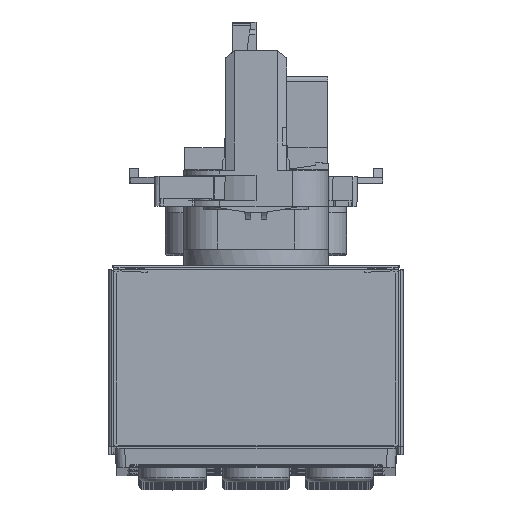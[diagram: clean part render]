
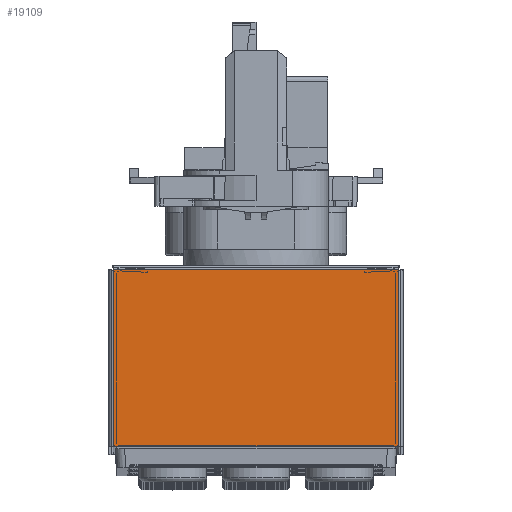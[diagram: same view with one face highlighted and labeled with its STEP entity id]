
A CAD part, top view. The second image highlights one B-rep face of the part: STEP entity #19109.
In plain terms, the highlighted planar face has unit normal (0, 0, 1).
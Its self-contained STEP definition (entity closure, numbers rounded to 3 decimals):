
#3027=FACE_OUTER_BOUND('',#4295,.T.);
#4295=EDGE_LOOP('',(#17070,#17071,#17072,#17073));
#5727=LINE('',#37248,#7204);
#5728=LINE('',#37250,#7205);
#5729=LINE('',#37252,#7206);
#5730=LINE('',#37253,#7207);
#7204=VECTOR('',#27275,10.);
#7205=VECTOR('',#27276,10.);
#7206=VECTOR('',#27277,10.);
#7207=VECTOR('',#27278,10.);
#9059=VERTEX_POINT('',#37246);
#9060=VERTEX_POINT('',#37247);
#9061=VERTEX_POINT('',#37249);
#9062=VERTEX_POINT('',#37251);
#11748=EDGE_CURVE('',#9059,#9060,#5727,.T.);
#11749=EDGE_CURVE('',#9060,#9061,#5728,.T.);
#11750=EDGE_CURVE('',#9062,#9061,#5729,.T.);
#11751=EDGE_CURVE('',#9062,#9059,#5730,.T.);
#17070=ORIENTED_EDGE('',*,*,#11748,.T.);
#17071=ORIENTED_EDGE('',*,*,#11749,.T.);
#17072=ORIENTED_EDGE('',*,*,#11750,.F.);
#17073=ORIENTED_EDGE('',*,*,#11751,.T.);
#18001=PLANE('',#21422);
#19109=ADVANCED_FACE('',(#3027),#18001,.T.);
#21422=AXIS2_PLACEMENT_3D('',#37245,#27273,#27274);
#27273=DIRECTION('center_axis',(0.,0.,
1.));
#27274=DIRECTION('ref_axis',(1.,0.,0.));
#27275=DIRECTION('',(-1.,0.,0.));
#27276=DIRECTION('',(0.,-1.,0.));
#27277=DIRECTION('',(-1.,0.,0.));
#27278=DIRECTION('',(0.,1.,0.));
#37245=CARTESIAN_POINT('Origin',(0.,20.419,
500.5));
#37246=CARTESIAN_POINT('',(31.5,39.419,500.5));
#37247=CARTESIAN_POINT('',(-31.5,39.419,500.5));
#37248=CARTESIAN_POINT('',(15.75,39.419,500.5));
#37249=CARTESIAN_POINT('',(-31.5,0.419,500.5));
#37250=CARTESIAN_POINT('',(-31.5,29.919,500.5));
#37251=CARTESIAN_POINT('',(31.5,0.419,500.5));
#37252=CARTESIAN_POINT('',(32.5,0.419,500.5));
#37253=CARTESIAN_POINT('',(31.5,10.419,500.5));
